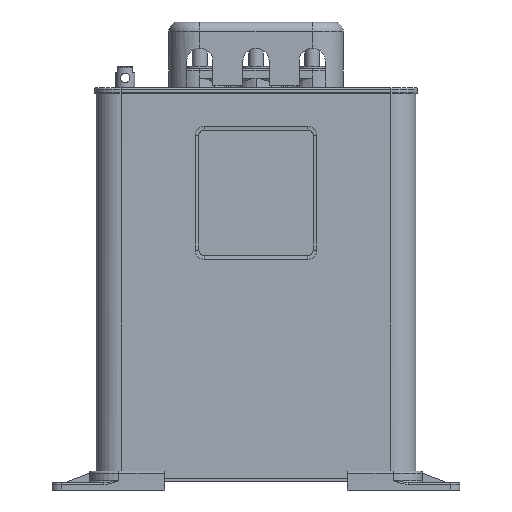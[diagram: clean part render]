
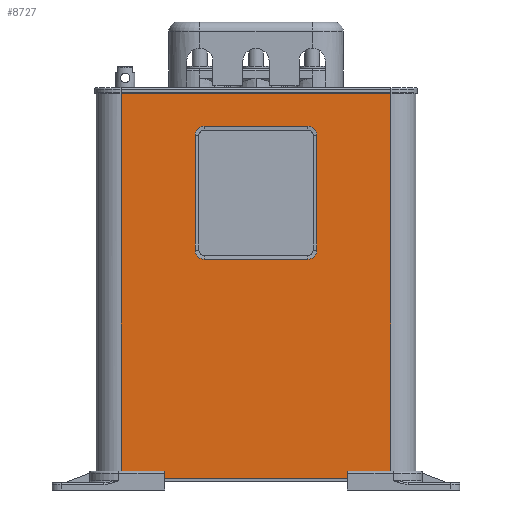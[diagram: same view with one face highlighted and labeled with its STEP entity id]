
A CAD part, front view. The second image highlights one B-rep face of the part: STEP entity #8727.
In plain terms, the highlighted planar face has unit normal (0, -1, 0).
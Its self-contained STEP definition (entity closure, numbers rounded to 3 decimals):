
#39=DIRECTION('',(-1.,0.,0.));
#40=VECTOR('',#39,23.22);
#41=CARTESIAN_POINT('',(72.,-44.28,-99.28));
#42=LINE('',#41,#40);
#43=DIRECTION('',(0.,0.,1.));
#44=VECTOR('',#43,1.5);
#45=CARTESIAN_POINT('',(48.78,-44.28,-100.78));
#46=LINE('',#45,#44);
#47=DIRECTION('',(0.707,0.,-0.707));
#48=VECTOR('',#47,1.414);
#49=CARTESIAN_POINT('',(48.78,-44.28,-100.78));
#50=LINE('',#49,#48);
#51=DIRECTION('',(-1.,0.,0.));
#52=VECTOR('',#51,22.22);
#53=CARTESIAN_POINT('',(72.,-44.28,-101.78));
#54=LINE('',#53,#52);
#55=DIRECTION('',(-1.,0.,0.));
#56=VECTOR('',#55,144.);
#57=CARTESIAN_POINT('',(72.,-44.28,-104.6));
#58=LINE('',#57,#56);
#59=DIRECTION('',(0.,0.,1.));
#60=VECTOR('',#59,2.82);
#61=CARTESIAN_POINT('',(-72.,-44.28,-104.6));
#62=LINE('',#61,#60);
#63=DIRECTION('',(1.,0.,0.));
#64=VECTOR('',#63,22.22);
#65=CARTESIAN_POINT('',(-72.,-44.28,-101.78));
#66=LINE('',#65,#64);
#67=DIRECTION('',(-0.707,0.,-0.707));
#68=VECTOR('',#67,1.414);
#69=CARTESIAN_POINT('',(-48.78,-44.28,-100.78));
#70=LINE('',#69,#68);
#71=DIRECTION('',(0.,0.,1.));
#72=VECTOR('',#71,1.5);
#73=CARTESIAN_POINT('',(-48.78,-44.28,-100.78));
#74=LINE('',#73,#72);
#75=DIRECTION('',(1.,0.,0.));
#76=VECTOR('',#75,23.22);
#77=CARTESIAN_POINT('',(-72.,-44.28,-99.28));
#78=LINE('',#77,#76);
#79=DIRECTION('',(0.,0.,1.));
#80=VECTOR('',#79,201.96);
#81=CARTESIAN_POINT('',(-72.,-44.28,-99.28));
#82=LINE('',#81,#80);
#83=DIRECTION('',(-1.,0.,0.));
#84=VECTOR('',#83,144.);
#85=CARTESIAN_POINT('',(72.,-44.28,102.68));
#86=LINE('',#85,#84);
#87=DIRECTION('',(-1.,0.,0.));
#88=VECTOR('',#87,55.);
#89=CARTESIAN_POINT('',(27.5,-44.28,84.72));
#90=LINE('',#89,#88);
#91=CARTESIAN_POINT('',(-27.5,-44.28,79.72));
#92=DIRECTION('',(0.,-1.,0.));
#93=DIRECTION('',(0.,0.,1.));
#94=AXIS2_PLACEMENT_3D('',#91,#92,#93);
#96=DIRECTION('',(0.,0.,-1.));
#97=VECTOR('',#96,61.);
#98=CARTESIAN_POINT('',(-32.5,-44.28,79.72));
#99=LINE('',#98,#97);
#100=CARTESIAN_POINT('',(-27.5,-44.28,18.72));
#101=DIRECTION('',(0.,-1.,0.));
#102=DIRECTION('',(-1.,0.,0.));
#103=AXIS2_PLACEMENT_3D('',#100,#101,#102);
#105=DIRECTION('',(1.,0.,0.));
#106=VECTOR('',#105,55.);
#107=CARTESIAN_POINT('',(-27.5,-44.28,13.72));
#108=LINE('',#107,#106);
#109=CARTESIAN_POINT('',(27.5,-44.28,18.72));
#110=DIRECTION('',(0.,-1.,0.));
#111=DIRECTION('',(0.,0.,-1.));
#112=AXIS2_PLACEMENT_3D('',#109,#110,#111);
#114=DIRECTION('',(0.,0.,1.));
#115=VECTOR('',#114,61.);
#116=CARTESIAN_POINT('',(32.5,-44.28,18.72));
#117=LINE('',#116,#115);
#118=CARTESIAN_POINT('',(27.5,-44.28,79.72));
#119=DIRECTION('',(0.,-1.,0.));
#120=DIRECTION('',(1.,0.,0.));
#121=AXIS2_PLACEMENT_3D('',#118,#119,#120);
#3364=DIRECTION('',(0.,0.,1.));
#3365=VECTOR('',#3364,201.96);
#3366=CARTESIAN_POINT('',(72.,-44.28,-99.28));
#3367=LINE('',#3366,#3365);
#3382=DIRECTION('',(0.,0.,1.));
#3383=VECTOR('',#3382,2.82);
#3384=CARTESIAN_POINT('',(72.,-44.28,-104.6));
#3385=LINE('',#3384,#3383);
#7031=CARTESIAN_POINT('',(-72.,-44.28,-104.6));
#7033=VERTEX_POINT('',#7031);
#7059=CARTESIAN_POINT('',(72.,-44.28,-104.6));
#7060=VERTEX_POINT('',#7059);
#7143=CARTESIAN_POINT('',(27.5,-44.28,84.72));
#7144=CARTESIAN_POINT('',(-27.5,-44.28,84.72));
#7145=VERTEX_POINT('',#7143);
#7146=VERTEX_POINT('',#7144);
#7147=CARTESIAN_POINT('',(-32.5,-44.28,79.72));
#7148=VERTEX_POINT('',#7147);
#7149=CARTESIAN_POINT('',(-32.5,-44.28,18.72));
#7150=VERTEX_POINT('',#7149);
#7151=CARTESIAN_POINT('',(-27.5,-44.28,13.72));
#7152=VERTEX_POINT('',#7151);
#7153=CARTESIAN_POINT('',(27.5,-44.28,13.72));
#7154=VERTEX_POINT('',#7153);
#7155=CARTESIAN_POINT('',(32.5,-44.28,18.72));
#7156=VERTEX_POINT('',#7155);
#7157=CARTESIAN_POINT('',(32.5,-44.28,79.72));
#7158=VERTEX_POINT('',#7157);
#7325=CARTESIAN_POINT('',(-72.,-44.28,102.68));
#7326=VERTEX_POINT('',#7325);
#7327=CARTESIAN_POINT('',(72.,-44.28,102.68));
#7328=VERTEX_POINT('',#7327);
#8187=CARTESIAN_POINT('',(-72.,-44.28,-99.28));
#8189=VERTEX_POINT('',#8187);
#8191=CARTESIAN_POINT('',(-72.,-44.28,-101.78));
#8193=VERTEX_POINT('',#8191);
#8194=CARTESIAN_POINT('',(-48.78,-44.28,-99.28));
#8195=VERTEX_POINT('',#8194);
#8196=CARTESIAN_POINT('',(-48.78,-44.28,-100.78));
#8197=VERTEX_POINT('',#8196);
#8198=CARTESIAN_POINT('',(-49.78,-44.28,-101.78));
#8199=VERTEX_POINT('',#8198);
#8575=CARTESIAN_POINT('',(72.,-44.28,-99.28));
#8576=CARTESIAN_POINT('',(48.78,-44.28,-99.28));
#8577=VERTEX_POINT('',#8575);
#8578=VERTEX_POINT('',#8576);
#8579=CARTESIAN_POINT('',(48.78,-44.28,-100.78));
#8580=VERTEX_POINT('',#8579);
#8581=CARTESIAN_POINT('',(72.,-44.28,-101.78));
#8582=CARTESIAN_POINT('',(49.78,-44.28,-101.78));
#8583=VERTEX_POINT('',#8581);
#8584=VERTEX_POINT('',#8582);
#8675=CARTESIAN_POINT('',(-72.,-44.28,104.72));
#8676=DIRECTION('',(0.,-1.,0.));
#8677=DIRECTION('',(0.,0.,-1.));
#8678=AXIS2_PLACEMENT_3D('',#8675,#8676,#8677);
#8679=PLANE('',#8678);
#8680=ORIENTED_EDGE('',*,*,#8640,.T.);
#8682=ORIENTED_EDGE('',*,*,#8681,.F.);
#8684=ORIENTED_EDGE('',*,*,#8683,.T.);
#8686=ORIENTED_EDGE('',*,*,#8685,.F.);
#8688=ORIENTED_EDGE('',*,*,#8687,.F.);
#8690=ORIENTED_EDGE('',*,*,#8689,.T.);
#8692=ORIENTED_EDGE('',*,*,#8691,.T.);
#8694=ORIENTED_EDGE('',*,*,#8693,.T.);
#8696=ORIENTED_EDGE('',*,*,#8695,.F.);
#8698=ORIENTED_EDGE('',*,*,#8697,.T.);
#8700=ORIENTED_EDGE('',*,*,#8699,.F.);
#8702=ORIENTED_EDGE('',*,*,#8701,.T.);
#8704=ORIENTED_EDGE('',*,*,#8703,.F.);
#8706=ORIENTED_EDGE('',*,*,#8705,.F.);
#8707=EDGE_LOOP('',(#8680,#8682,#8684,#8686,#8688,#8690,#8692,#8694,#8696,#8698,
#8700,#8702,#8704,#8706));
#8708=FACE_OUTER_BOUND('',#8707,.F.);
#8710=ORIENTED_EDGE('',*,*,#8709,.T.);
#8712=ORIENTED_EDGE('',*,*,#8711,.T.);
#8714=ORIENTED_EDGE('',*,*,#8713,.T.);
#8716=ORIENTED_EDGE('',*,*,#8715,.T.);
#8718=ORIENTED_EDGE('',*,*,#8717,.T.);
#8720=ORIENTED_EDGE('',*,*,#8719,.T.);
#8722=ORIENTED_EDGE('',*,*,#8721,.T.);
#8724=ORIENTED_EDGE('',*,*,#8723,.T.);
#8725=EDGE_LOOP('',(#8710,#8712,#8714,#8716,#8718,#8720,#8722,#8724));
#8726=FACE_BOUND('',#8725,.F.);
#8727=ADVANCED_FACE('',(#8708,#8726),#8679,.T.);
#95=CIRCLE('',#94,5.);
#104=CIRCLE('',#103,5.);
#113=CIRCLE('',#112,5.);
#122=CIRCLE('',#121,5.);
#8640=EDGE_CURVE('',#8577,#8578,#42,.T.);
#8681=EDGE_CURVE('',#8580,#8578,#46,.T.);
#8683=EDGE_CURVE('',#8580,#8584,#50,.T.);
#8685=EDGE_CURVE('',#8583,#8584,#54,.T.);
#8687=EDGE_CURVE('',#7060,#8583,#3385,.T.);
#8689=EDGE_CURVE('',#7060,#7033,#58,.T.);
#8691=EDGE_CURVE('',#7033,#8193,#62,.T.);
#8693=EDGE_CURVE('',#8193,#8199,#66,.T.);
#8695=EDGE_CURVE('',#8197,#8199,#70,.T.);
#8697=EDGE_CURVE('',#8197,#8195,#74,.T.);
#8699=EDGE_CURVE('',#8189,#8195,#78,.T.);
#8701=EDGE_CURVE('',#8189,#7326,#82,.T.);
#8703=EDGE_CURVE('',#7328,#7326,#86,.T.);
#8705=EDGE_CURVE('',#8577,#7328,#3367,.T.);
#8709=EDGE_CURVE('',#7145,#7146,#90,.T.);
#8711=EDGE_CURVE('',#7146,#7148,#95,.T.);
#8713=EDGE_CURVE('',#7148,#7150,#99,.T.);
#8715=EDGE_CURVE('',#7150,#7152,#104,.T.);
#8717=EDGE_CURVE('',#7152,#7154,#108,.T.);
#8719=EDGE_CURVE('',#7154,#7156,#113,.T.);
#8721=EDGE_CURVE('',#7156,#7158,#117,.T.);
#8723=EDGE_CURVE('',#7158,#7145,#122,.T.);
